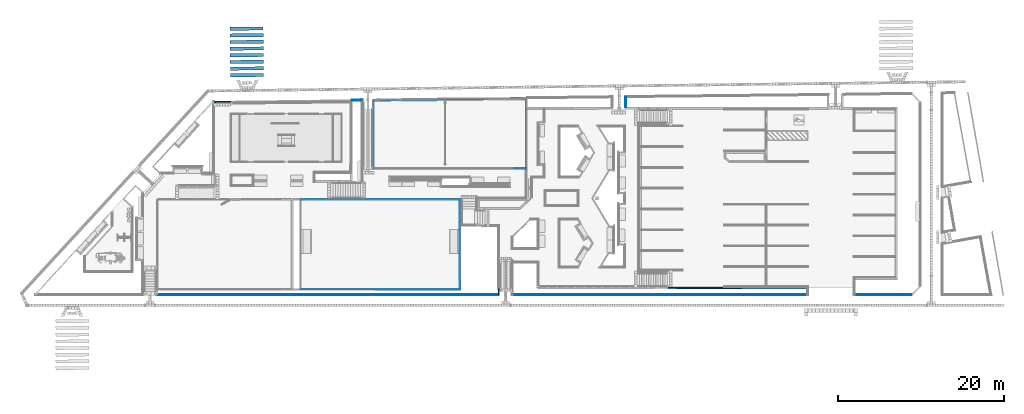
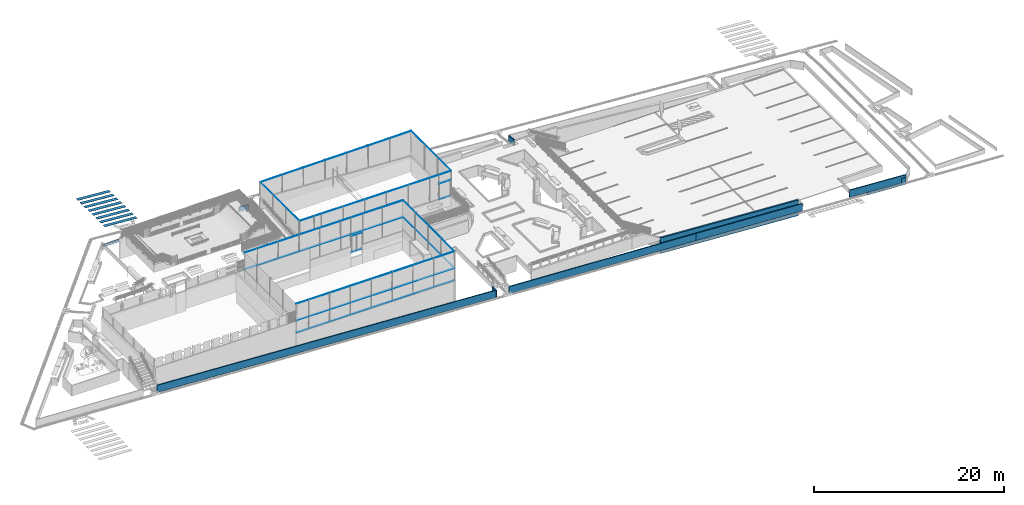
# One storey, part 11 of 237: 36 beams.
"""IFC2X3 building model written with IfcOpenShell, lengths in millimetres."""

from ifc_helpers import new_model, entity, si_unit, converted_unit, derived_unit, money_unit, direction, frame, frame_2d, origin_with_axes, place, context, subcontext, project, spatial, rectangle, circle, extrude, clip, halfspace, material, type_object, element, save


model = new_model("IFC2X3")

# Units and contexts
model_context = context("Model", 3, precision=0.01, world=origin_with_axes(), true_north=direction((0.0, 1.0)))
body_context = subcontext(model_context, "Body", "Model", "MODEL_VIEW")
ifc_project = project(units=[si_unit("LENGTHUNIT", "METRE", prefix="MILLI"), si_unit("AREAUNIT", "SQUARE_METRE"), si_unit("VOLUMEUNIT", "CUBIC_METRE"), converted_unit("PLANEANGLEUNIT", "DEGREE", entity("IfcPlaneAngleMeasure", 0.0174532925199), si_unit("PLANEANGLEUNIT", "RADIAN"), dimensions=[0, 0, 0, 0, 0, 0, 0]), money_unit("USD"), converted_unit("TIMEUNIT", "Year", entity("IfcTimeMeasure", 31556926.0), si_unit("TIMEUNIT", "SECOND"), dimensions=[0, 0, 1, 0, 0, 0, 0]), si_unit("MASSUNIT", "GRAM", prefix="KILO"), si_unit("THERMODYNAMICTEMPERATUREUNIT", "DEGREE_CELSIUS"), si_unit("LUMINOUSINTENSITYUNIT", "LUMEN"), si_unit("ENERGYUNIT", "JOULE", prefix="MEGA"), derived_unit("THERMALCONDUCTANCEUNIT", [(si_unit("POWERUNIT", "WATT"), 1), (si_unit("LENGTHUNIT", "METRE"), -1), (si_unit("THERMODYNAMICTEMPERATUREUNIT", "KELVIN"), -1)]), derived_unit("SPECIFICHEATCAPACITYUNIT", [(si_unit("ENERGYUNIT", "JOULE"), 1), (si_unit("MASSUNIT", "GRAM", prefix="KILO"), -1), (si_unit("THERMODYNAMICTEMPERATUREUNIT", "KELVIN"), -1)]), derived_unit("MASSDENSITYUNIT", [(si_unit("MASSUNIT", "GRAM", prefix="KILO"), 1), (si_unit("VOLUMEUNIT", "CUBIC_METRE"), -1)])], contexts=[model_context])

# Site, building, storey
site_placement = place(None, origin_with_axes())
site = spatial("IfcSite", under=ifc_project, at=site_placement, Name="Local", CompositionType="ELEMENT")
building_placement = place(site_placement, origin_with_axes())
building = spatial("IfcBuilding", under=site, at=building_placement, Name="Construção", CompositionType="ELEMENT")
storey_placement = place(building_placement, origin_with_axes())
storey = spatial("IfcBuildingStorey", under=building, at=storey_placement, Name="Pavimento Térreo", CompositionType="ELEMENT", Elevation=0.0)

# Beams
ifc_material = material(Name="GENÉRICO - ESTRUTURAL")
beam_type_1 = type_object("IfcBeamType", Name="GENÉRICO - ESTRUTURAL 120 x 919", PredefinedType="NOTDEFINED")
beam_1_placement = place(storey_placement, frame((84886.2710969, 12082.6256679, -5296.12958845), z_axis=(0.0, 0.0, 1.0), x_axis=(0.0, -1.0, 0.0)))
element("IfcBeam", 1, at=beam_1_placement, inside=storey, type_object=beam_type_1, material=ifc_material, Name="Viga-031", context=body_context, shape_type="Clipping", body=[
    clip(clip(extrude(rectangle(XDim=919.288027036, YDim=120.0, at=frame_2d((-459.644013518, 0.0), x_axis=(1.0, 0.0))), frame((0.0, -63.2433226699, 3.08018804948), z_axis=(0.0, 0.998816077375, -0.0486461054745), x_axis=(0.0, 0.0486461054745, 0.998816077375)), (0.0, 0.0, 1.0), 22809.8173333), halfspace(frame((0.0, 0.0, 0.0), z_axis=(0.0, 1.0, 0.0), x_axis=(0.0, 0.0, 1.0)), True)), halfspace(frame((0.0, 22656.3256291, 0.0), z_axis=(0.0, -1.0, 0.0), x_axis=(0.0, 0.0, -1.0)), True)),
])
beam_2_placement = place(storey_placement, frame((107542.596726, 12082.6256679, -6399.5779922), z_axis=(0.0, 0.0, 1.0), x_axis=(0.0, -1.0, 0.0)))
element("IfcBeam", 2, at=beam_2_placement, inside=storey, type_object=beam_type_1, material=ifc_material, Name="Viga-032", context=body_context, shape_type="Clipping", body=[
    clip(clip(extrude(rectangle(XDim=919.288027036, YDim=120.0, at=frame_2d((-459.644013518, 0.0), x_axis=(1.0, 0.0))), frame((0.0, -69.4185094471, 3.71196580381), z_axis=(0.0, 0.998573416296, -0.0533959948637), x_axis=(0.0, 0.0533959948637, 0.998573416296)), (0.0, 0.0, 1.0), 13062.1552872), halfspace(frame((0.0, 0.0, 0.0), z_axis=(0.0, 1.0, 0.0), x_axis=(0.0, 0.0, 1.0)), True)), halfspace(frame((0.0, 12904.6840105, 0.0), z_axis=(0.0, -1.0, 0.0), x_axis=(0.0, 0.0, -1.0)), True)),
])
beam_3_placement = place(storey_placement, frame((42162.4440952, 12083.0395418, -2987.82832522), z_axis=(0.0, 0.0, 1.0), x_axis=(0.0, -1.0, 0.0)))
element("IfcBeam", 3, at=beam_3_placement, inside=storey, type_object=beam_type_1, material=ifc_material, Name="Viga-031", context=body_context, shape_type="Clipping", body=[
    clip(clip(extrude(rectangle(XDim=919.288027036, YDim=120.0, at=frame_2d((-459.644013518, 0.0), x_axis=(1.0, 0.0))), frame((0.0, -69.3596195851, 3.7056615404), z_axis=(0.0, 0.998575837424, -0.0533506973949), x_axis=(0.0, 0.0533506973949, 0.998575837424)), (0.0, 0.0, 1.0), 41301.4117461), halfspace(frame((0.0, 0.0, 0.0), z_axis=(0.0, 1.0, 0.0), x_axis=(0.0, 0.0, 1.0)), True)), halfspace(frame((0.0, 41103.872582, 0.0), z_axis=(0.0, -1.0, 0.0), x_axis=(0.0, 0.0, -1.0)), True)),
])
beam_4_placement = place(storey_placement, frame((83326.3166772, 12023.0395418, -5183.87612219), z_axis=(0.0, 0.0, 1.0), x_axis=(1.0, 0.0, 0.0)))
element("IfcBeam", 4, at=beam_4_placement, inside=storey, type_object=beam_type_1, material=ifc_material, Name="Viga-031", context=body_context, shape_type="SweptSolid", body=[
    extrude(rectangle(XDim=919.288027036, YDim=120.0, at=frame_2d((-459.644013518, 0.0), x_axis=(1.0, 0.0))), frame((0.0, 0.0, 0.0), z_axis=(0.0, 1.0, 0.0), x_axis=(0.0, 0.0, 1.0)), (0.0, 0.0, 1.0), 768.771832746),
])
beam_5_placement = place(storey_placement, frame((126183.866073, 12082.6246226, -7380.476228), z_axis=(0.0, 0.0, 1.0), x_axis=(0.0, -1.0, 0.0)))
element("IfcBeam", 5, at=beam_5_placement, inside=storey, type_object=beam_type_1, material=ifc_material, Name="Viga-032", context=body_context, shape_type="Clipping", body=[
    clip(clip(extrude(rectangle(XDim=919.288027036, YDim=120.0, at=frame_2d((-459.644013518, 0.0), x_axis=(1.0, 0.0))), frame((0.0, -75.2259761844, 4.36010873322), z_axis=(0.0, 0.998324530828, -0.057863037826), x_axis=(0.0, 0.057863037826, 0.998324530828)), (0.0, 0.0, 1.0), 7016.53347043), halfspace(frame((0.0, 0.0, 0.0), z_axis=(0.0, 1.0, 0.0), x_axis=(0.0, 0.0, 1.0)), True)), halfspace(frame((0.0, 6854.32553254, 0.0), z_axis=(0.0, -1.0, 0.0), x_axis=(0.0, 0.0, -1.0)), True)),
])
beam_6_placement = place(storey_placement, frame((128324.107177, 12082.8180067, -7850.0), z_axis=(0.0, 0.0, 1.0), x_axis=(-4.10226215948e-05, -0.999999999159, 0.0)))
element("IfcBeam", 6, at=beam_6_placement, inside=storey, type_object=beam_type_1, material=ifc_material, Name="Viga-032", context=body_context, shape_type="Clipping", body=[
    clip(clip(extrude(rectangle(XDim=919.288027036, YDim=120.0, at=frame_2d((-459.644013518, 0.0), x_axis=(1.0, 0.0))), frame((0.0, -66.5926191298, 3.41551404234), z_axis=(0.0, 0.998687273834, -0.0512223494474), x_axis=(0.0, 0.0512223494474, 0.998687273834)), (0.0, 0.0, 1.0), 4853.64117221), halfspace(frame((0.0, 0.0, 0.0), z_axis=(0.0, 1.0, 0.0), x_axis=(0.0, 0.0, 1.0)), True)), halfspace(frame((0.0, 4714.08443218, 0.0), z_axis=(0.0, -1.0, 0.0), x_axis=(0.0, 0.0, -1.0)), True)),
])
beam_type_2 = type_object("IfcBeamType", Name="GENÉRICO - ESTRUTURAL 150 x 300", PredefinedType="NOTDEFINED")
beam_7_placement = place(storey_placement, frame((49063.2040846, 35307.5274079, -1457.10819655), z_axis=(0.0, 0.0, 1.0), x_axis=(0.0135690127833, -0.999907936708, 0.0)))
element("IfcBeam", 7, at=beam_7_placement, inside=storey, type_object=beam_type_2, material=ifc_material, Name="Viga-032", context=body_context, shape_type="SweptSolid", body=[
    extrude(rectangle(XDim=300.0, YDim=150.0, at=frame_2d((-150.0, 0.0), x_axis=(1.0, 0.0))), frame((0.0, 0.0, 0.0), z_axis=(0.0, 1.0, 0.0), x_axis=(0.0, 0.0, 1.0)), (0.0, 0.0, 1.0), 1998.74230414),
])
beam_type_3 = type_object("IfcBeamType", Name="GENÉRICO - ESTRUTURAL D30", PredefinedType="NOTDEFINED")
beam_8_placement = place(storey_placement, frame((59485.3136826, 23558.4725499, 996.422236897), z_axis=(0.0, 0.0, 1.0), x_axis=(0.0, -1.0, 0.0)))
element("IfcBeam", 8, at=beam_8_placement, inside=storey, type_object=beam_type_3, material=ifc_material, Name="Viga-027", context=body_context, shape_type="SweptSolid", body=[
    extrude(circle(Radius=15.0, at=frame_2d((-15.0, 0.0), x_axis=(1.0, 0.0))), frame((0.0, 0.0, 0.0), z_axis=(0.0, 1.0, 0.0), x_axis=(0.0, 0.0, 1.0)), (0.0, 0.0, 1.0), 19179.263421),
])
beam_9_placement = place(storey_placement, frame((59471.6965585, 23558.4725499, -1142.65531609), z_axis=(0.0, 0.0, 1.0), x_axis=(-7.83265337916e-06, -0.999999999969, 0.0)))
element("IfcBeam", 9, at=beam_9_placement, inside=storey, type_object=beam_type_3, material=ifc_material, Name="Viga-027", context=body_context, shape_type="SweptSolid", body=[
    extrude(circle(Radius=15.0, at=frame_2d((-15.0, 0.0), x_axis=(1.0, 0.0))), frame((0.0, 0.0, 0.0), z_axis=(0.0, 1.0, 0.0), x_axis=(0.0, 0.0, 1.0)), (0.0, 0.0, 1.0), 13149.8803144),
])
beam_10_placement = place(storey_placement, frame((59468.9276599, 12746.9154825, -1142.65531609), z_axis=(0.0, 0.0, 1.0), x_axis=(-5.68954239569e-05, -0.999999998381, 0.0)))
element("IfcBeam", 10, at=beam_10_placement, inside=storey, type_object=beam_type_3, material=ifc_material, Name="Viga-027", context=body_context, shape_type="SweptSolid", body=[
    extrude(circle(Radius=15.0, at=frame_2d((-15.0, 0.0), x_axis=(1.0, 0.0))), frame((0.0, 0.0, 0.0), z_axis=(0.0, 1.0, 0.0), x_axis=(0.0, 0.0, 1.0)), (0.0, 0.0, 1.0), 19187.6729748),
])
for number, where, z_axis, x_axis, name in (
    (11, (72417.8940895, 23558.486009, -3450.55389455), (0.0, 0.0, 1.0), (-1.09218998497e-05, -0.99999999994, 0.0), "Viga-027"),
    (12, (72417.8940895, 23558.486009, -1408.34744969), (0.0, 0.0, 1.0), (-1.09218998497e-05, -0.99999999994, 0.0), "Viga-027"),
):
    element("IfcBeam", number, at=place(storey_placement, frame(where, z_axis=z_axis, x_axis=x_axis)), inside=storey, type_object=beam_type_3, material=ifc_material, Name=name, context=body_context, shape_type="SweptSolid", body=[
        extrude(circle(Radius=15.0, at=frame_2d((-15.0, 0.0), x_axis=(1.0, 0.0))), frame((0.0, 0.0, 0.0), z_axis=(0.0, 1.0, 0.0), x_axis=(0.0, 0.0, 1.0)), (0.0, 0.0, 1.0), 1232.30886864),
    ])
beam_11_placement = place(storey_placement, frame((86670.2856781, 35699.024991, -297.210511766), z_axis=(0.0, 0.0, 1.0), x_axis=(-1.0, 0.0, 0.0)))
element("IfcBeam", 13, at=beam_11_placement, inside=storey, type_object=beam_type_3, material=ifc_material, Name="Viga-027", context=body_context, shape_type="SweptSolid", body=[
    extrude(circle(Radius=15.0, at=frame_2d((-15.0, 0.0), x_axis=(1.0, 0.0))), frame((0.0, 0.0, 0.0), z_axis=(0.0, 1.0, 0.0), x_axis=(0.0, 0.0, 1.0)), (0.0, 0.0, 1.0), 8396.89650641),
])
beam_12_placement = place(storey_placement, frame((78664.5771036, 23558.4725499, 996.806155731), z_axis=(0.0, 0.0, 1.0), x_axis=(-0.999999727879, 0.000737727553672, 0.0)))
element("IfcBeam", 14, at=beam_12_placement, inside=storey, type_object=beam_type_3, material=ifc_material, Name="Viga-027", context=body_context, shape_type="SweptSolid", body=[
    extrude(circle(Radius=15.0, at=frame_2d((-15.0, 0.0), x_axis=(1.0, 0.0))), frame((0.0, 0.0, 0.0), z_axis=(0.0, 1.0, 0.0), x_axis=(0.0, 0.0, 1.0)), (0.0, 0.0, 1.0), 10812.6517005),
])
beam_13_placement = place(storey_placement, frame((68268.8350468, 35517.4689202, -297.210511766), z_axis=(0.0, 0.0, 1.0), x_axis=(0.01122428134, -0.99993700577, 0.0)))
element("IfcBeam", 15, at=beam_13_placement, inside=storey, type_object=beam_type_3, material=ifc_material, Name="Viga-027", context=body_context, shape_type="SweptSolid", body=[
    extrude(circle(Radius=15.0, at=frame_2d((-15.0, 0.0), x_axis=(1.0, 0.0))), frame((0.0, 0.0, 0.0), z_axis=(0.0, 1.0, 0.0), x_axis=(0.0, 0.0, 1.0)), (0.0, 0.0, 1.0), 18402.6098894),
])
beam_14_placement = place(storey_placement, frame((68268.8350468, 27302.1284846, -297.210511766), z_axis=(0.0, 0.0, 1.0), x_axis=(0.0, -1.0, 0.0)))
element("IfcBeam", 16, at=beam_14_placement, inside=storey, type_object=beam_type_3, material=ifc_material, Name="Viga-027", context=body_context, shape_type="SweptSolid", body=[
    extrude(circle(Radius=15.0, at=frame_2d((-15.0, 0.0), x_axis=(1.0, 0.0))), frame((0.0, 0.0, 0.0), z_axis=(0.0, 1.0, 0.0), x_axis=(0.0, 0.0, 1.0)), (0.0, 0.0, 1.0), 18401.4506312),
])
for number, where, z_axis, x_axis, name in (
    (17, (59468.9276599, 12746.9154825, 996.422236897), (0.0, 0.0, 1.0), (-5.68954239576e-05, -0.999999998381, 0.0), "Viga-027"),
    (18, (59468.9276599, 12746.9154825, -2691.89460916), (0.0, 0.0, 1.0), (-5.68954239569e-05, -0.999999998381, 0.0), "Viga-027"),
):
    element("IfcBeam", number, at=place(storey_placement, frame(where, z_axis=z_axis, x_axis=x_axis)), inside=storey, type_object=beam_type_3, material=ifc_material, Name=name, context=body_context, shape_type="SweptSolid", body=[
        extrude(circle(Radius=15.0, at=frame_2d((-15.0, 0.0), x_axis=(1.0, 0.0))), frame((0.0, 0.0, 0.0), z_axis=(0.0, 1.0, 0.0), x_axis=(0.0, 0.0, 1.0)), (0.0, 0.0, 1.0), 19187.6729748),
    ])
beam_15_placement = place(storey_placement, frame((85211.7730328, 27302.1284846, -1427.84232565), z_axis=(0.0, 0.0, 1.0), x_axis=(0.0, -1.0, 0.0)))
element("IfcBeam", 19, at=beam_15_placement, inside=storey, type_object=beam_type_3, material=ifc_material, Name="Viga-027", context=body_context, shape_type="SweptSolid", body=[
    extrude(circle(Radius=15.0, at=frame_2d((-15.0, 0.0), x_axis=(1.0, 0.0))), frame((0.0, 0.0, 0.0), z_axis=(0.0, 1.0, 0.0), x_axis=(0.0, 0.0, 1.0)), (0.0, 0.0, 1.0), 1296.91666175),
])
beam_16_placement = place(storey_placement, frame((72332.2332272, 23558.3695514, -1360.55389398), z_axis=(0.0, 0.0, 1.0), x_axis=(0.0, -1.0, 0.0)))
element("IfcBeam", 20, at=beam_16_placement, inside=storey, type_object=beam_type_3, material=ifc_material, Name="Viga-027", context=body_context, shape_type="SweptSolid", body=[
    extrude(circle(Radius=15.0, at=frame_2d((-15.0, 0.0), x_axis=(1.0, 0.0))), frame((0.0, 0.0, 0.0), z_axis=(0.0, 1.0, 0.0), x_axis=(0.0, 0.0, 1.0)), (0.0, 0.0, 1.0), 1381.54468481),
])
beam_17_placement = place(storey_placement, frame((85211.6975292, 27302.1284846, -3435.52066745), z_axis=(0.0, 0.0, 1.0), x_axis=(0.0, -1.0, 0.0)))
element("IfcBeam", 21, at=beam_17_placement, inside=storey, type_object=beam_type_3, material=ifc_material, Name="Viga-027", context=body_context, shape_type="SweptSolid", body=[
    extrude(circle(Radius=15.0, at=frame_2d((-15.0, 0.0), x_axis=(1.0, 0.0))), frame((0.0, 0.0, 0.0), z_axis=(0.0, 1.0, 0.0), x_axis=(0.0, 0.0, 1.0)), (0.0, 0.0, 1.0), 1296.91666175),
])
beam_18_placement = place(storey_placement, frame((72621.5768725, 23558.3695514, -1142.65531609), z_axis=(0.0, 0.0, 1.0), x_axis=(1.70442579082e-05, -0.999999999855, 0.0)))
element("IfcBeam", 22, at=beam_18_placement, inside=storey, type_object=beam_type_3, material=ifc_material, Name="Viga-027", context=body_context, shape_type="SweptSolid", body=[
    extrude(circle(Radius=15.0, at=frame_2d((-15.0, 0.0), x_axis=(1.0, 0.0))), frame((0.0, 0.0, 0.0), z_axis=(0.0, 1.0, 0.0), x_axis=(0.0, 0.0, 1.0)), (0.0, 0.0, 1.0), 6043.00023203),
])
beam_19_placement = place(storey_placement, frame((78664.5773947, 23558.4725499, -1142.65531609), z_axis=(0.0, 0.0, 1.0), x_axis=(-0.999999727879, 0.000737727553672, 0.0)))
element("IfcBeam", 23, at=beam_19_placement, inside=storey, type_object=beam_type_3, material=ifc_material, Name="Viga-027", context=body_context, shape_type="SweptSolid", body=[
    extrude(circle(Radius=15.0, at=frame_2d((-15.0, 0.0), x_axis=(1.0, 0.0))), frame((0.0, 0.0, 0.0), z_axis=(0.0, 1.0, 0.0), x_axis=(0.0, 0.0, 1.0)), (0.0, 0.0, 1.0), 10812.6517005),
])
beam_20_placement = place(storey_placement, frame((68268.8350468, 27302.1284846, -297.210511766), z_axis=(0.0, 0.0, 1.0), x_axis=(1.0, 0.0, 0.0)))
element("IfcBeam", 24, at=beam_20_placement, inside=storey, type_object=beam_type_3, material=ifc_material, Name="Viga-027", context=body_context, shape_type="SweptSolid", body=[
    extrude(circle(Radius=15.0, at=frame_2d((-15.0, 0.0), x_axis=(1.0, 0.0))), frame((0.0, 0.0, 0.0), z_axis=(0.0, 1.0, 0.0), x_axis=(0.0, 0.0, 1.0)), (0.0, 0.0, 1.0), 8215.34043562),
])
beam_21_placement = place(storey_placement, frame((85160.6178825, 27302.1284846, -1388.85309182), z_axis=(0.0, 0.0, 1.0), x_axis=(0.0, -1.0, 0.0)))
element("IfcBeam", 25, at=beam_21_placement, inside=storey, type_object=beam_type_3, material=ifc_material, Name="Viga-027", context=body_context, shape_type="SweptSolid", body=[
    extrude(circle(Radius=15.0, at=frame_2d((-15.0, 0.0), x_axis=(1.0, 0.0))), frame((0.0, 0.0, 0.0), z_axis=(0.0, 1.0, 0.0), x_axis=(0.0, 0.0, 1.0)), (0.0, 0.0, 1.0), 1484.42164419),
])
beam_type_4 = type_object("IfcBeamType", Name="GENÉRICO - ESTRUTURAL 120 x 585", PredefinedType="NOTDEFINED")
beam_22_placement = place(storey_placement, frame((65659.041512, 35521.5852696, -2582.22752735), z_axis=(0.0, 0.0, 1.0), x_axis=(0.0120211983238, -0.999927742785, 0.0)))
element("IfcBeam", 26, at=beam_22_placement, inside=storey, type_object=beam_type_4, material=ifc_material, Name="Viga-031", context=body_context, shape_type="Clipping", body=[
    clip(clip(extrude(rectangle(XDim=584.59470722, YDim=120.0, at=frame_2d((-292.29735361, 0.0), x_axis=(1.0, 0.0))), frame((0.0, -62.7651317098, 4.77883672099), z_axis=(0.0, 0.997114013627, -0.0759186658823), x_axis=(0.0, 0.0759186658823, 0.997114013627)), (0.0, 0.0, 1.0), 1312.86468351), halfspace(frame((0.0, 0.0, 0.0), z_axis=(0.0, 1.0, 0.0), x_axis=(0.0, 0.0, 1.0)), True)), halfspace(frame((0.0, 1183.54551051, 0.0), z_axis=(0.0, -1.0, 0.0), x_axis=(0.0, 0.0, -1.0)), True)),
])
beam_type_5 = type_object("IfcBeamType", Name="GENÉRICO - ESTRUTURAL 400 x 20", PredefinedType="NOTDEFINED")
beam_23_placement = place(storey_placement, frame((55013.1626548, 38543.7687085, -1998.42224256), z_axis=(0.0, 0.0, 1.0), x_axis=(-0.0104361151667, 0.999945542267, 0.0)))
element("IfcBeam", 27, at=beam_23_placement, inside=storey, type_object=beam_type_5, material=ifc_material, Name="Viga-031", context=body_context, shape_type="Clipping", body=[
    clip(clip(extrude(rectangle(XDim=20.0, YDim=400.0, at=frame_2d((-10.0, 0.0), x_axis=(1.0, 0.0))), frame((0.0, -2.16406340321, -0.166061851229), z_axis=(0.0, 0.997068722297, 0.0765111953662), x_axis=(0.0, -0.0765111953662, 0.997068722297)), (0.0, 0.0, 1.0), 4016.10043246), halfspace(frame((0.0, 0.0, 0.0), z_axis=(0.0, 1.0, 0.0), x_axis=(0.0, 0.0, 1.0)), True)), halfspace(frame((0.0, 4000.0, 0.0), z_axis=(0.0, -1.0, 0.0), x_axis=(0.0, 0.0, -1.0)), True)),
])
beam_24_placement = place(storey_placement, frame((55004.8137627, 41747.6538943, -2016.04544201), z_axis=(0.0, 0.0, 1.0), x_axis=(-0.0104361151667, 0.999945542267, 0.0)))
element("IfcBeam", 28, at=beam_24_placement, inside=storey, type_object=beam_type_5, material=ifc_material, Name="Viga-031", context=body_context, shape_type="Clipping", body=[
    clip(clip(extrude(rectangle(XDim=20.0, YDim=400.0, at=frame_2d((-10.0, 0.0), x_axis=(1.0, 0.0))), frame((0.0, -2.28752217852, -0.185613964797), z_axis=(0.0, 0.996724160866, 0.0808761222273), x_axis=(0.0, -0.0808761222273, 0.996724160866)), (0.0, 0.0, 1.0), 4017.73650282), halfspace(frame((0.0, 0.0, 0.0), z_axis=(0.0, 1.0, 0.0), x_axis=(0.0, 0.0, 1.0)), True)), halfspace(frame((0.0, 4000.0, 0.0), z_axis=(0.0, -1.0, 0.0), x_axis=(0.0, 0.0, -1.0)), True)),
])
for number, where, z_axis, x_axis, name in (
    (29, (54996.4663223, 42547.6103433, -2018.5299598), (0.0, 0.0, 1.0), (-0.0104361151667, 0.999945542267, 0.0), "Viga-031"),
    (30, (54988.1174724, 43347.5667775, -2018.5299598), (0.0, 0.0, 1.0), (-0.0104361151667, 0.999945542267, 0.0), "Viga-031"),
    (31, (54978.1460761, 44147.5065418, -2018.5299598), (0.0, 0.0, 1.0), (-0.0104361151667, 0.999945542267, 0.0), "Viga-031"),
):
    element("IfcBeam", number, at=place(storey_placement, frame(where, z_axis=z_axis, x_axis=x_axis)), inside=storey, type_object=beam_type_5, material=ifc_material, Name=name, context=body_context, shape_type="Clipping", body=[
        clip(clip(extrude(rectangle(XDim=20.0, YDim=400.0, at=frame_2d((-10.0, 0.0), x_axis=(1.0, 0.0))), frame((0.0, -2.30491697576, -0.188457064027), z_axis=(0.0, 0.996674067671, 0.0814911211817), x_axis=(0.0, -0.0814911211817, 0.996674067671)), (0.0, 0.0, 1.0), 4017.97334138), halfspace(frame((0.0, 0.0, 0.0), z_axis=(0.0, 1.0, 0.0), x_axis=(0.0, 0.0, 1.0)), True)), halfspace(frame((0.0, 4000.0, 0.0), z_axis=(0.0, -1.0, 0.0), x_axis=(0.0, 0.0, -1.0)), True)),
    ])
beam_25_placement = place(storey_placement, frame((55004.8137627, 40947.6538943, -2008.70658456), z_axis=(0.0, 0.0, 1.0), x_axis=(-0.0104361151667, 0.999945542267, 0.0)))
element("IfcBeam", 32, at=beam_25_placement, inside=storey, type_object=beam_type_5, material=ifc_material, Name="Viga-031", context=body_context, shape_type="Clipping", body=[
    clip(clip(extrude(rectangle(XDim=20.0, YDim=400.0, at=frame_2d((-10.0, 0.0), x_axis=(1.0, 0.0))), frame((0.0, -2.24236413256, -0.178334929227), z_axis=(0.0, 0.996852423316, 0.079279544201), x_axis=(0.0, -0.079279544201, 0.996852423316)), (0.0, 0.0, 1.0), 4017.12894968), halfspace(frame((0.0, 0.0, 0.0), z_axis=(0.0, 1.0, 0.0), x_axis=(0.0, 0.0, 1.0)), True)), halfspace(frame((0.0, 4000.0, 0.0), z_axis=(0.0, -1.0, 0.0), x_axis=(0.0, 0.0, -1.0)), True)),
])
beam_26_placement = place(storey_placement, frame((55004.8137627, 40147.6538943, -2008.05294888), z_axis=(0.0, 0.0, 1.0), x_axis=(-0.0104361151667, 0.999945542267, 0.0)))
element("IfcBeam", 33, at=beam_26_placement, inside=storey, type_object=beam_type_5, material=ifc_material, Name="Viga-031", context=body_context, shape_type="Clipping", body=[
    clip(clip(extrude(rectangle(XDim=20.0, YDim=400.0, at=frame_2d((-10.0, 0.0), x_axis=(1.0, 0.0))), frame((0.0, -2.2315468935, -0.176613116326), z_axis=(0.0, 0.996882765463, 0.0788970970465), x_axis=(0.0, -0.0788970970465, 0.996882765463)), (0.0, 0.0, 1.0), 4016.98497809), halfspace(frame((0.0, 0.0, 0.0), z_axis=(0.0, 1.0, 0.0), x_axis=(0.0, 0.0, 1.0)), True)), halfspace(frame((0.0, 4000.0, 0.0), z_axis=(0.0, -1.0, 0.0), x_axis=(0.0, 0.0, -1.0)), True)),
])
beam_27_placement = place(storey_placement, frame((55013.1626548, 39347.6974605, -2002.03012427), z_axis=(0.0, 0.0, 1.0), x_axis=(-0.0104361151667, 0.999945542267, 0.0)))
element("IfcBeam", 34, at=beam_27_placement, inside=storey, type_object=beam_type_5, material=ifc_material, Name="Viga-031", context=body_context, shape_type="Clipping", body=[
    clip(clip(extrude(rectangle(XDim=20.0, YDim=400.0, at=frame_2d((-10.0, 0.0), x_axis=(1.0, 0.0))), frame((0.0, -2.18934867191, -0.16997687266), z_axis=(0.0, 0.996999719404, 0.0774051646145), x_axis=(0.0, -0.0774051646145, 0.996999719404)), (0.0, 0.0, 1.0), 4016.42911167), halfspace(frame((0.0, 0.0, 0.0), z_axis=(0.0, 1.0, 0.0), x_axis=(0.0, 0.0, 1.0)), True)), halfspace(frame((0.0, 4000.0, 0.0), z_axis=(0.0, -1.0, 0.0), x_axis=(0.0, 0.0, -1.0)), True)),
])
beam_type_6 = type_object("IfcBeamType", Name="GENÉRICO - ESTRUTURAL 200 x 1997", PredefinedType="NOTDEFINED")
beam_28_placement = place(storey_placement, frame((103663.870084, 12894.5098857, -6101.45842067), z_axis=(0.0, 0.0, 1.0), x_axis=(0.0, -1.0, 0.0)))
element("IfcBeam", 35, at=beam_28_placement, inside=storey, type_object=beam_type_6, material=ifc_material, Name="Viga-032", context=body_context, shape_type="Clipping", body=[
    clip(clip(extrude(rectangle(XDim=1997.14683259, YDim=200.0, at=frame_2d((-998.573416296, 0.0), x_axis=(1.0, 0.0))), frame((0.0, -165.715973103, 9.73985690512), z_axis=(0.0, 0.998277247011, -0.0586731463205), x_axis=(0.0, 0.0586731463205, 0.998277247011)), (0.0, 0.0, 1.0), 17144.3781274), halfspace(frame((0.0, 0.0, 0.0), z_axis=(0.0, 1.0, 0.0), x_axis=(0.0, 0.0, 1.0)), True)), halfspace(frame((0.0, 16783.4106525, 0.0), z_axis=(0.0, -1.0, 0.0), x_axis=(0.0, 0.0, -1.0)), True)),
])
beam_type_7 = type_object("IfcBeamType", Name="GENÉRICO - ESTRUTURAL 120 x 766", PredefinedType="NOTDEFINED")
beam_29_placement = place(storey_placement, frame((98623.3613182, 35861.474767, -5123.01417543), z_axis=(0.0, 0.0, 1.0), x_axis=(-0.999999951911, -0.000310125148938, 0.0)))
element("IfcBeam", 36, at=beam_29_placement, inside=storey, type_object=beam_type_7, material=ifc_material, Name="Viga-031", context=body_context, shape_type="Clipping", body=[
    clip(clip(extrude(rectangle(XDim=766.230692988, YDim=120.0, at=frame_2d((-383.115346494, 0.0), x_axis=(1.0, 0.0))), frame((0.0, -114.629795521, -12.1945044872), z_axis=(0.0, 0.994389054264, 0.105784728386), x_axis=(0.0, -0.105784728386, 0.994389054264)), (0.0, 0.0, 1.0), 1444.40164436), halfspace(frame((0.0, 0.0, 0.0), z_axis=(0.0, 1.0, 0.0), x_axis=(0.0, 0.0, 1.0)), True)), halfspace(frame((0.0, 1207.03759407, 0.0), z_axis=(0.0, -1.0, 0.0), x_axis=(0.0, 0.0, -1.0)), True)),
])

save(model, "model.ifc")
